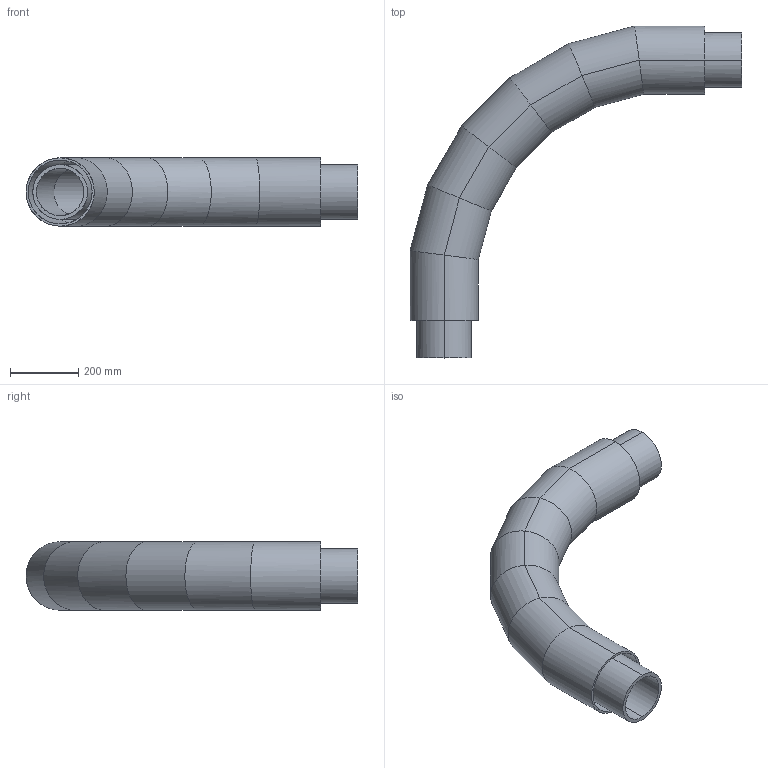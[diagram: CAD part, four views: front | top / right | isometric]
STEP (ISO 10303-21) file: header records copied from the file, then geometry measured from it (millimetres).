
FILE_DESCRIPTION (( 'STEP AP214' ), '1' );
FILE_NAME ('KP_3-200-160SCEC.STEP', '2025-01-09T10:21:09', ( '' ), ( '' ), 'SwSTEP 2.0', 'SolidWorks 2023', '' );
FILE_SCHEMA (( 'AUTOMOTIVE_DESIGN' ));
Length unit declared in the file: millimetre
Products named in the file (1): KP_3-200-160SCEC
Bounding box: 974.53 x 974.53 x 200.4 mm (x, y, z)
Volume: 12112675.8 mm3; surface area: 2922331 mm2
Topology: 2 solids, 2 shells, 60 faces, 120 edges, 64 vertices
Faces by surface type: cylinder 56, plane 4
Entity records: 1516 total; most frequent: CARTESIAN_POINT 389, ORIENTED_EDGE 240, DIRECTION 210, EDGE_CURVE 120, AXIS2_PLACEMENT_3D 77, EDGE_LOOP 64, VERTEX_POINT 64, ADVANCED_FACE 60
